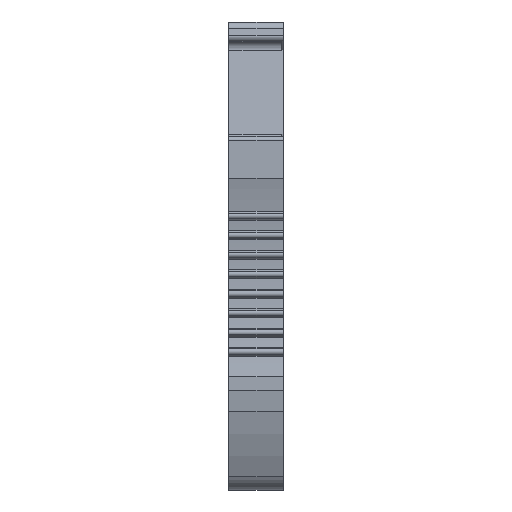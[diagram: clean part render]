
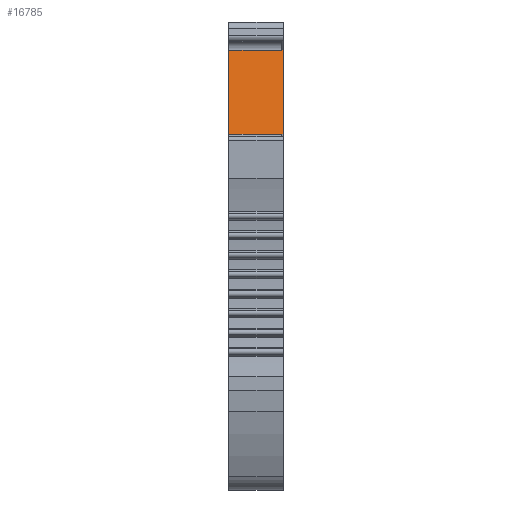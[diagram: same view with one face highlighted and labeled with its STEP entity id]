
A CAD part, front view. The second image highlights one B-rep face of the part: STEP entity #16785.
In plain terms, the highlighted planar face has unit normal (0, -0.985, 0.174).
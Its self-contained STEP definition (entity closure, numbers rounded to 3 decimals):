
#16785 = ADVANCED_FACE('',(#16786),#16800,.T.);
#16786 = FACE_BOUND('',#16787,.T.);
#16787 = EDGE_LOOP('',(#16788,#16811,#16827,#16843,#16859,#16875));
#16788 = ORIENTED_EDGE('',*,*,#16789,.T.);
#16789 = EDGE_CURVE('',#16790,#16792,#16794,.T.);
#16790 = VERTEX_POINT('',#16791);
#16791 = CARTESIAN_POINT('',(32.429,-19.218,
    17.645));
#16792 = VERTEX_POINT('',#16793);
#16793 = CARTESIAN_POINT('',(35.829,-19.218,
    17.645));
#16794 = SURFACE_CURVE('',#16795,(#16799),.PCURVE_S1.);
#16795 = LINE('',#16796,#16797);
#16796 = CARTESIAN_POINT('',(30.729,-19.218,
    17.645));
#16797 = VECTOR('',#16798,1.);
#16798 = DIRECTION('',(1.,0.,0.));
#16799 = PCURVE('',#16800,#16805);
#16800 = PLANE('',#16801);
#16801 = AXIS2_PLACEMENT_3D('',#16802,#16803,#16804);
#16802 = CARTESIAN_POINT('',(30.729,-19.218,
    17.645));
#16803 = DIRECTION('',(0.,-0.985,0.174));
#16804 = DIRECTION('',(0.,-0.174,-0.985));
#16805 = DEFINITIONAL_REPRESENTATION('',(#16806),#16810);
#16806 = LINE('',#16807,#16808);
#16807 = CARTESIAN_POINT('',(0.,0.));
#16808 = VECTOR('',#16809,1.);
#16809 = DIRECTION('',(0.,1.));
#16810 = ( GEOMETRIC_REPRESENTATION_CONTEXT(2) 
PARAMETRIC_REPRESENTATION_CONTEXT() REPRESENTATION_CONTEXT('2D SPACE',''
  ) );
#16811 = ORIENTED_EDGE('',*,*,#16812,.T.);
#16812 = EDGE_CURVE('',#16792,#16813,#16815,.T.);
#16813 = VERTEX_POINT('',#16814);
#16814 = CARTESIAN_POINT('',(35.929,-19.218,
    17.645));
#16815 = SURFACE_CURVE('',#16816,(#16820),.PCURVE_S1.);
#16816 = LINE('',#16817,#16818);
#16817 = CARTESIAN_POINT('',(30.729,-19.218,
    17.645));
#16818 = VECTOR('',#16819,1.);
#16819 = DIRECTION('',(1.,0.,0.));
#16820 = PCURVE('',#16800,#16821);
#16821 = DEFINITIONAL_REPRESENTATION('',(#16822),#16826);
#16822 = LINE('',#16823,#16824);
#16823 = CARTESIAN_POINT('',(0.,0.));
#16824 = VECTOR('',#16825,1.);
#16825 = DIRECTION('',(0.,1.));
#16826 = ( GEOMETRIC_REPRESENTATION_CONTEXT(2) 
PARAMETRIC_REPRESENTATION_CONTEXT() REPRESENTATION_CONTEXT('2D SPACE',''
  ) );
#16827 = ORIENTED_EDGE('',*,*,#16828,.T.);
#16828 = EDGE_CURVE('',#16813,#16829,#16831,.T.);
#16829 = VERTEX_POINT('',#16830);
#16830 = CARTESIAN_POINT('',(35.929,-18.269,
    23.027));
#16831 = SURFACE_CURVE('',#16832,(#16836),.PCURVE_S1.);
#16832 = LINE('',#16833,#16834);
#16833 = CARTESIAN_POINT('',(35.929,-19.218,
    17.645));
#16834 = VECTOR('',#16835,1.);
#16835 = DIRECTION('',(0.,0.174,0.985));
#16836 = PCURVE('',#16800,#16837);
#16837 = DEFINITIONAL_REPRESENTATION('',(#16838),#16842);
#16838 = LINE('',#16839,#16840);
#16839 = CARTESIAN_POINT('',(0.,5.2));
#16840 = VECTOR('',#16841,1.);
#16841 = DIRECTION('',(-1.,0.));
#16842 = ( GEOMETRIC_REPRESENTATION_CONTEXT(2) 
PARAMETRIC_REPRESENTATION_CONTEXT() REPRESENTATION_CONTEXT('2D SPACE',''
  ) );
#16843 = ORIENTED_EDGE('',*,*,#16844,.T.);
#16844 = EDGE_CURVE('',#16829,#16845,#16847,.T.);
#16845 = VERTEX_POINT('',#16846);
#16846 = CARTESIAN_POINT('',(35.829,-18.269,
    23.027));
#16847 = SURFACE_CURVE('',#16848,(#16852),.PCURVE_S1.);
#16848 = LINE('',#16849,#16850);
#16849 = CARTESIAN_POINT('',(35.929,-18.269,
    23.027));
#16850 = VECTOR('',#16851,1.);
#16851 = DIRECTION('',(-1.,0.,0.));
#16852 = PCURVE('',#16800,#16853);
#16853 = DEFINITIONAL_REPRESENTATION('',(#16854),#16858);
#16854 = LINE('',#16855,#16856);
#16855 = CARTESIAN_POINT('',(-5.465,5.2));
#16856 = VECTOR('',#16857,1.);
#16857 = DIRECTION('',(0.,-1.));
#16858 = ( GEOMETRIC_REPRESENTATION_CONTEXT(2) 
PARAMETRIC_REPRESENTATION_CONTEXT() REPRESENTATION_CONTEXT('2D SPACE',''
  ) );
#16859 = ORIENTED_EDGE('',*,*,#16860,.T.);
#16860 = EDGE_CURVE('',#16845,#16861,#16863,.T.);
#16861 = VERTEX_POINT('',#16862);
#16862 = CARTESIAN_POINT('',(32.429,-18.269,
    23.027));
#16863 = SURFACE_CURVE('',#16864,(#16868),.PCURVE_S1.);
#16864 = LINE('',#16865,#16866);
#16865 = CARTESIAN_POINT('',(30.729,-18.269,
    23.027));
#16866 = VECTOR('',#16867,1.);
#16867 = DIRECTION('',(-1.,0.,0.));
#16868 = PCURVE('',#16800,#16869);
#16869 = DEFINITIONAL_REPRESENTATION('',(#16870),#16874);
#16870 = LINE('',#16871,#16872);
#16871 = CARTESIAN_POINT('',(-5.465,0.));
#16872 = VECTOR('',#16873,1.);
#16873 = DIRECTION('',(0.,-1.));
#16874 = ( GEOMETRIC_REPRESENTATION_CONTEXT(2) 
PARAMETRIC_REPRESENTATION_CONTEXT() REPRESENTATION_CONTEXT('2D SPACE',''
  ) );
#16875 = ORIENTED_EDGE('',*,*,#16876,.T.);
#16876 = EDGE_CURVE('',#16861,#16790,#16877,.T.);
#16877 = SURFACE_CURVE('',#16878,(#16882),.PCURVE_S1.);
#16878 = LINE('',#16879,#16880);
#16879 = CARTESIAN_POINT('',(32.429,-19.218,
    17.645));
#16880 = VECTOR('',#16881,1.);
#16881 = DIRECTION('',(0.,-0.174,-0.985));
#16882 = PCURVE('',#16800,#16883);
#16883 = DEFINITIONAL_REPRESENTATION('',(#16884),#16888);
#16884 = LINE('',#16885,#16886);
#16885 = CARTESIAN_POINT('',(0.,1.7));
#16886 = VECTOR('',#16887,1.);
#16887 = DIRECTION('',(1.,0.));
#16888 = ( GEOMETRIC_REPRESENTATION_CONTEXT(2) 
PARAMETRIC_REPRESENTATION_CONTEXT() REPRESENTATION_CONTEXT('2D SPACE',''
  ) );
